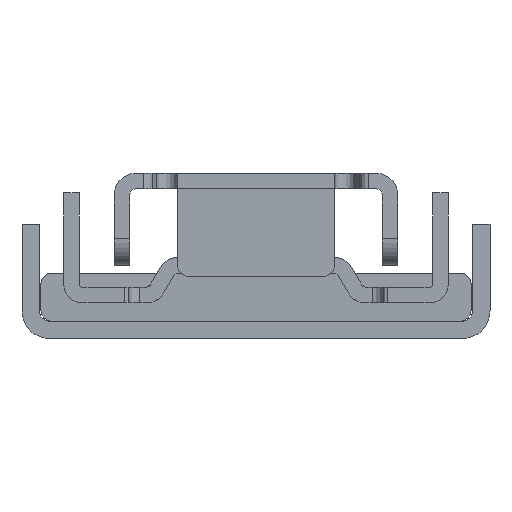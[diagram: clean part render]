
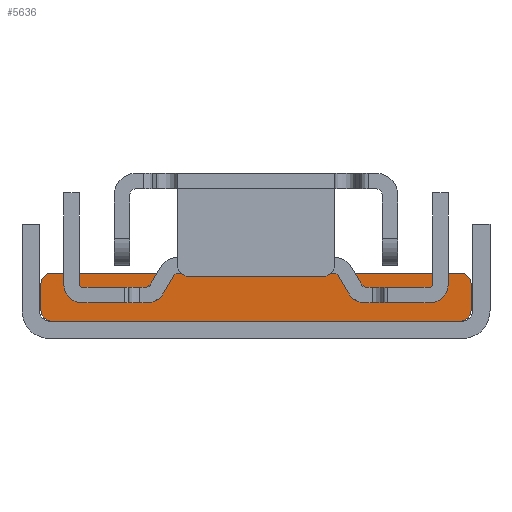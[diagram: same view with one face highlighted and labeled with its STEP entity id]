
A CAD part, front view. The second image highlights one B-rep face of the part: STEP entity #5636.
In plain terms, the highlighted planar face has unit normal (0, -1, 0) as drawn and (-1, 0, 0) by its records, which use the part's own axes.
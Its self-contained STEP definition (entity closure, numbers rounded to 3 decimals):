
#5460=DIRECTION('',(0.,0.,1.));
#5461=VECTOR('',#5460,46.6);
#5462=CARTESIAN_POINT('',(-100.5,0.,-23.3));
#5463=LINE('',#5462,#5461);
#5464=CARTESIAN_POINT('',(-100.5,1.2,23.3));
#5465=DIRECTION('',(-1.,0.,0.));
#5466=DIRECTION('',(0.,-1.,0.));
#5467=AXIS2_PLACEMENT_3D('',#5464,#5465,#5466);
#5469=CARTESIAN_POINT('',(-100.5,1.2,-23.3));
#5470=DIRECTION('',(-1.,0.,0.));
#5471=DIRECTION('',(0.,0.,-1.));
#5472=AXIS2_PLACEMENT_3D('',#5469,#5470,#5471);
#5474=DIRECTION('',(0.,1.,0.));
#5475=VECTOR('',#5474,3.1);
#5476=CARTESIAN_POINT('',(-100.5,1.2,-24.5));
#5477=LINE('',#5476,#5475);
#5478=CARTESIAN_POINT('',(-100.5,4.3,-23.3));
#5479=DIRECTION('',(-1.,0.,0.));
#5480=DIRECTION('',(0.,1.,0.));
#5481=AXIS2_PLACEMENT_3D('',#5478,#5479,#5480);
#5483=CARTESIAN_POINT('',(-100.5,4.3,23.3));
#5484=DIRECTION('',(-1.,0.,0.));
#5485=DIRECTION('',(0.,0.,1.));
#5486=AXIS2_PLACEMENT_3D('',#5483,#5484,#5485);
#5516=DIRECTION('',(0.,1.,0.));
#5517=VECTOR('',#5516,3.1);
#5518=CARTESIAN_POINT('',(-100.5,1.2,24.5));
#5519=LINE('',#5518,#5517);
#5528=DIRECTION('',(0.,0.,1.));
#5529=VECTOR('',#5528,46.6);
#5530=CARTESIAN_POINT('',(-100.5,5.5,-23.3));
#5531=LINE('',#5530,#5529);
#5552=CARTESIAN_POINT('',(-100.5,0.,23.3));
#5553=CARTESIAN_POINT('',(-100.5,1.2,24.5));
#5554=VERTEX_POINT('',#5552);
#5555=VERTEX_POINT('',#5553);
#5564=CARTESIAN_POINT('',(-100.5,4.3,24.5));
#5565=VERTEX_POINT('',#5564);
#5566=CARTESIAN_POINT('',(-100.5,5.5,23.3));
#5567=VERTEX_POINT('',#5566);
#5568=CARTESIAN_POINT('',(-100.5,5.5,-23.3));
#5569=CARTESIAN_POINT('',(-100.5,4.3,-24.5));
#5570=VERTEX_POINT('',#5568);
#5571=VERTEX_POINT('',#5569);
#5580=CARTESIAN_POINT('',(-100.5,1.2,-24.5));
#5581=VERTEX_POINT('',#5580);
#5582=CARTESIAN_POINT('',(-100.5,0.,-23.3));
#5583=VERTEX_POINT('',#5582);
#5615=CARTESIAN_POINT('',(-100.5,0.,-24.5));
#5616=DIRECTION('',(-1.,0.,0.));
#5617=DIRECTION('',(0.,0.,1.));
#5618=AXIS2_PLACEMENT_3D('',#5615,#5616,#5617);
#5619=PLANE('',#5618);
#5620=ORIENTED_EDGE('',*,*,#5605,.F.);
#5621=ORIENTED_EDGE('',*,*,#5595,.F.);
#5623=ORIENTED_EDGE('',*,*,#5622,.F.);
#5625=ORIENTED_EDGE('',*,*,#5624,.T.);
#5627=ORIENTED_EDGE('',*,*,#5626,.F.);
#5629=ORIENTED_EDGE('',*,*,#5628,.T.);
#5631=ORIENTED_EDGE('',*,*,#5630,.F.);
#5633=ORIENTED_EDGE('',*,*,#5632,.F.);
#5634=EDGE_LOOP('',(#5620,#5621,#5623,#5625,#5627,#5629,#5631,#5633));
#5635=FACE_OUTER_BOUND('',#5634,.F.);
#5636=ADVANCED_FACE('',(#5635),#5619,.T.);
#5468=CIRCLE('',#5467,1.2);
#5473=CIRCLE('',#5472,1.2);
#5482=CIRCLE('',#5481,1.2);
#5487=CIRCLE('',#5486,1.2);
#5595=EDGE_CURVE('',#5583,#5554,#5463,.T.);
#5605=EDGE_CURVE('',#5554,#5555,#5468,.T.);
#5622=EDGE_CURVE('',#5581,#5583,#5473,.T.);
#5624=EDGE_CURVE('',#5581,#5571,#5477,.T.);
#5626=EDGE_CURVE('',#5570,#5571,#5482,.T.);
#5628=EDGE_CURVE('',#5570,#5567,#5531,.T.);
#5630=EDGE_CURVE('',#5565,#5567,#5487,.T.);
#5632=EDGE_CURVE('',#5555,#5565,#5519,.T.);
